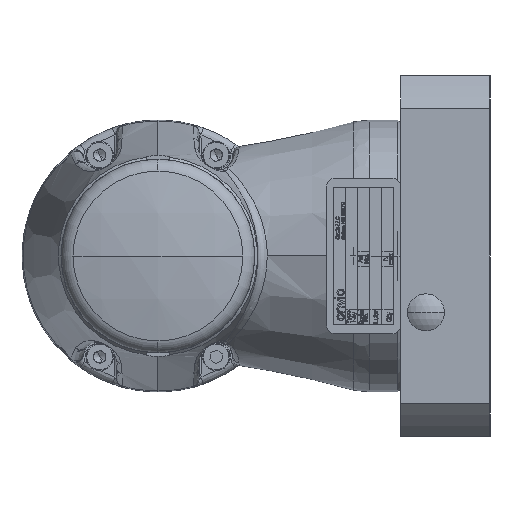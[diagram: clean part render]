
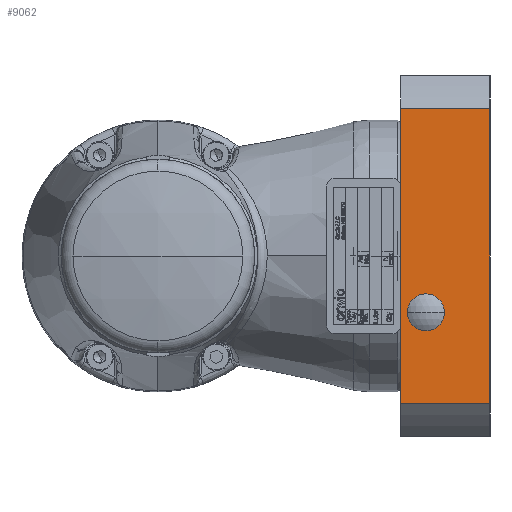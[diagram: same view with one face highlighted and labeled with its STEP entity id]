
A CAD part, left-side view. The second image highlights one B-rep face of the part: STEP entity #9062.
In plain terms, the highlighted planar face has unit normal (-1, 0, 0).
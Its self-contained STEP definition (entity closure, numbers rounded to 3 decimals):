
#676 = DIRECTION ( 'NONE',  ( -1., 0., 0. ) ) ;
#727 = CARTESIAN_POINT ( 'NONE',  ( -46.5, -69., -10.25 ) ) ;
#1878 = CARTESIAN_POINT ( 'NONE',  ( -46.5, -69., -18.75 ) ) ;
#4401 = VERTEX_POINT ( 'NONE', #727 ) ;
#4467 = LINE ( 'NONE', #41351, #38030 ) ;
#5080 = DIRECTION ( 'NONE',  ( 0., 0., -1. ) ) ;
#5291 = PLANE ( 'NONE',  #33642 ) ;
#7544 = VERTEX_POINT ( 'NONE', #1878 ) ;
#7565 = ORIENTED_EDGE ( 'NONE', *, *, #19715, .F. ) ;
#7901 = EDGE_LOOP ( 'NONE', ( #16575, #7565 ) ) ;
#8430 = CIRCLE ( 'NONE', #29256, 4.25 ) ;
#9062 = ADVANCED_FACE ( 'NONE', ( #17940, #18137 ), #5291, .F. ) ;
#10617 = CARTESIAN_POINT ( 'NONE',  ( -46.5, -85.501, 37.918 ) ) ;
#13853 = ORIENTED_EDGE ( 'NONE', *, *, #19306, .T. ) ;
#14905 = CARTESIAN_POINT ( 'NONE',  ( -46.5, -62.5, -37.918 ) ) ;
#16575 = ORIENTED_EDGE ( 'NONE', *, *, #40961, .F. ) ;
#17801 = ORIENTED_EDGE ( 'NONE', *, *, #29628, .T. ) ;
#17940 = FACE_OUTER_BOUND ( 'NONE', #24002, .T. ) ;
#18137 = FACE_BOUND ( 'NONE', #7901, .T. ) ;
#18605 = DIRECTION ( 'NONE',  ( 0., -1., 0. ) ) ;
#18738 = ORIENTED_EDGE ( 'NONE', *, *, #41874, .T. ) ;
#19129 = CARTESIAN_POINT ( 'NONE',  ( -46.5, -85.5, 37.918 ) ) ;
#19306 = EDGE_CURVE ( 'NONE', #38085, #29331, #32011, .T. ) ;
#19715 = EDGE_CURVE ( 'NONE', #7544, #4401, #33043, .T. ) ;
#20990 = VECTOR ( 'NONE', #39205, 1000. ) ;
#21308 = CARTESIAN_POINT ( 'NONE',  ( -46.5, -62.5, 37.918 ) ) ;
#21327 = EDGE_CURVE ( 'NONE', #38085, #26150, #32235, .T. ) ;
#21863 = CARTESIAN_POINT ( 'NONE',  ( -46.5, -85.501, -37.918 ) ) ;
#24002 = EDGE_LOOP ( 'NONE', ( #18738, #41335, #13853, #17801 ) ) ;
#24106 = DIRECTION ( 'NONE',  ( 0., 1., 0. ) ) ;
#25101 = CARTESIAN_POINT ( 'NONE',  ( -46.5, -62.5, 46.5 ) ) ;
#26118 = AXIS2_PLACEMENT_3D ( 'NONE', #26551, #676, #39783 ) ;
#26150 = VERTEX_POINT ( 'NONE', #21308 ) ;
#26551 = CARTESIAN_POINT ( 'NONE',  ( -46.5, -69., -14.5 ) ) ;
#26755 = CARTESIAN_POINT ( 'NONE',  ( -46.5, -69., -14.5 ) ) ;
#29256 = AXIS2_PLACEMENT_3D ( 'NONE', #26755, #36510, #36292 ) ;
#29331 = VERTEX_POINT ( 'NONE', #32368 ) ;
#29628 = EDGE_CURVE ( 'NONE', #29331, #33006, #4467, .T. ) ;
#30576 = LINE ( 'NONE', #10617, #33955 ) ;
#31135 = DIRECTION ( 'NONE',  ( 0., 0., 1. ) ) ;
#32011 = LINE ( 'NONE', #21863, #39931 ) ;
#32235 = LINE ( 'NONE', #25101, #20990 ) ;
#32368 = CARTESIAN_POINT ( 'NONE',  ( -46.5, -85.5, -37.918 ) ) ;
#33006 = VERTEX_POINT ( 'NONE', #19129 ) ;
#33043 = CIRCLE ( 'NONE', #26118, 4.25 ) ;
#33642 = AXIS2_PLACEMENT_3D ( 'NONE', #34604, #34821, #5080 ) ;
#33955 = VECTOR ( 'NONE', #24106, 1000. ) ;
#34604 = CARTESIAN_POINT ( 'NONE',  ( -46.5, -62.5, 46.5 ) ) ;
#34821 = DIRECTION ( 'NONE',  ( 1., 0., 0. ) ) ;
#36292 = DIRECTION ( 'NONE',  ( 0., 0., 1. ) ) ;
#36510 = DIRECTION ( 'NONE',  ( -1., 0., 0. ) ) ;
#38030 = VECTOR ( 'NONE', #31135, 1000. ) ;
#38085 = VERTEX_POINT ( 'NONE', #14905 ) ;
#39205 = DIRECTION ( 'NONE',  ( 0., 0., 1. ) ) ;
#39783 = DIRECTION ( 'NONE',  ( 0., 0., 1. ) ) ;
#39931 = VECTOR ( 'NONE', #18605, 1000. ) ;
#40961 = EDGE_CURVE ( 'NONE', #4401, #7544, #8430, .T. ) ;
#41335 = ORIENTED_EDGE ( 'NONE', *, *, #21327, .F. ) ;
#41351 = CARTESIAN_POINT ( 'NONE',  ( -46.5, -85.5, 46.5 ) ) ;
#41874 = EDGE_CURVE ( 'NONE', #33006, #26150, #30576, .T. ) ;
